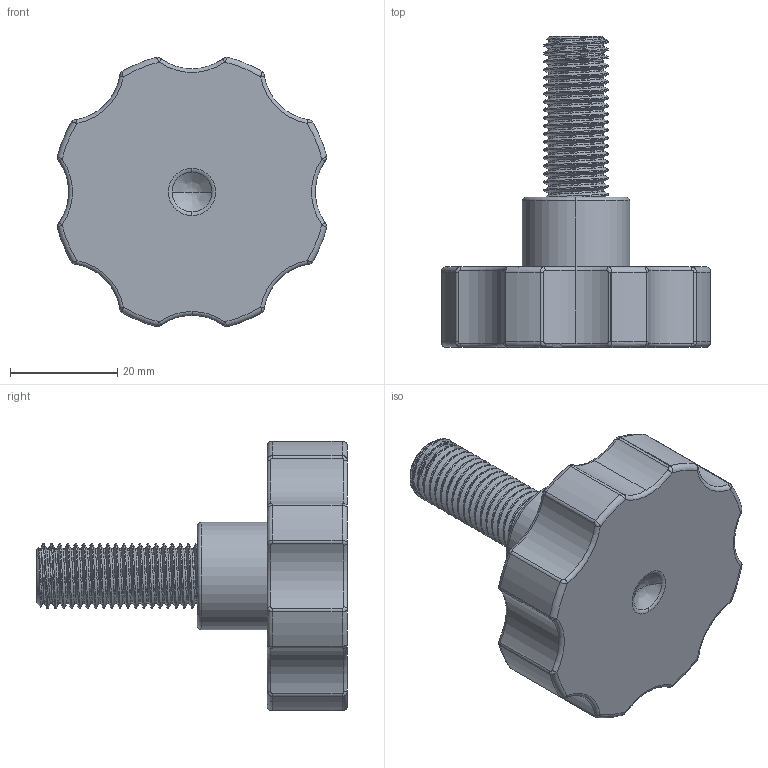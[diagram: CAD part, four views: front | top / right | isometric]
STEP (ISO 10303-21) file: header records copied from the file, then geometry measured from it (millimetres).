
FILE_DESCRIPTION (( 'STEP AP214' ), '1' );
FILE_NAME ('D50M12H30.STEP', '2020-06-30T10:29:13', ( '' ), ( '' ), 'SwSTEP 2.0', 'SolidWorks 2018', '' );
FILE_SCHEMA (( 'AUTOMOTIVE_DESIGN' ));
Length unit declared in the file: millimetre
Products named in the file (3): D50M12H30 Part 2; D50M12H30 Part 1; D50M12H30
Assembly tree (2 placements, depth 2):
  D50M12H30
    D50M12H30 Part 1
    D50M12H30 Part 2
Bounding box: 50.33 x 58 x 50.33 mm (x, y, z)
Volume: 22641 mm3; surface area: 13271 mm2
Topology: 2 solids, 2 shells, 185 faces, 450 edges, 274 vertices
Faces by surface type: cylinder 91, torus 42, bspline 40, plane 10, cone 2
Entity records: 11639 total; most frequent: CARTESIAN_POINT 7628, ORIENTED_EDGE 896, DIRECTION 773, EDGE_CURVE 448, AXIS2_PLACEMENT_3D 339, VERTEX_POINT 274, EDGE_LOOP 192, CIRCLE 189
